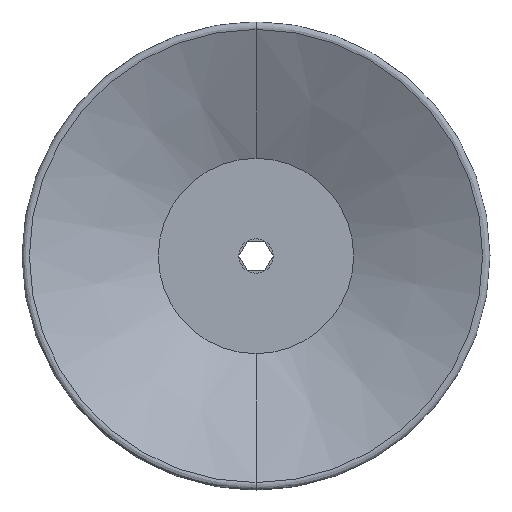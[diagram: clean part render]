
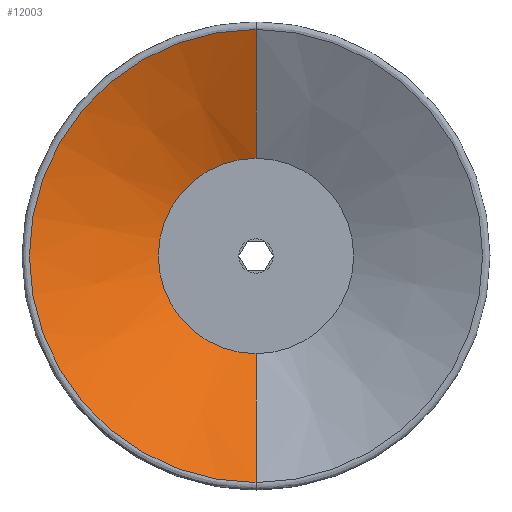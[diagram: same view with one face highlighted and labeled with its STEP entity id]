
A CAD part, front view. The second image highlights one B-rep face of the part: STEP entity #12003.
In plain terms, the highlighted conical face has half-angle 64.273 degrees and reference radius 61.492 mm.
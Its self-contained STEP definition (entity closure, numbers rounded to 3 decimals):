
#145 = EDGE_CURVE ( 'NONE', #10352, #3583, #7480, .T. ) ;
#378 = DIRECTION ( 'NONE',  ( 0., -1., 0. ) ) ;
#988 = VERTEX_POINT ( 'NONE', #1513 ) ;
#1126 = ORIENTED_EDGE ( 'NONE', *, *, #145, .F. ) ;
#1513 = CARTESIAN_POINT ( 'NONE',  ( 0., -33.861, 61.492 ) ) ;
#1663 = CONICAL_SURFACE ( 'NONE', #8410, 61.492, 1.122 ) ;
#1706 = DIRECTION ( 'NONE',  ( 0., 0., -1. ) ) ;
#2758 = DIRECTION ( 'NONE',  ( 0., -1., 0. ) ) ;
#3330 = CARTESIAN_POINT ( 'NONE',  ( 0., -17., 26.5 ) ) ;
#3536 = VERTEX_POINT ( 'NONE', #3330 ) ;
#3583 = VERTEX_POINT ( 'NONE', #6363 ) ;
#4049 = VECTOR ( 'NONE', #6882, 1000. ) ;
#4380 = CIRCLE ( 'NONE', #6175, 26.5 ) ;
#4620 = LINE ( 'NONE', #5892, #4049 ) ;
#5057 = CIRCLE ( 'NONE', #10441, 61.492 ) ;
#5271 = EDGE_LOOP ( 'NONE', ( #12150, #10329, #11287, #1126 ) ) ;
#5892 = CARTESIAN_POINT ( 'NONE',  ( 0., -33.861, 61.492 ) ) ;
#5926 = CARTESIAN_POINT ( 'NONE',  ( 0., -33.861, 0. ) ) ;
#6175 = AXIS2_PLACEMENT_3D ( 'NONE', #10839, #378, #6639 ) ;
#6363 = CARTESIAN_POINT ( 'NONE',  ( 0., -33.861, -61.492 ) ) ;
#6639 = DIRECTION ( 'NONE',  ( 0., 0., -1. ) ) ;
#6882 = DIRECTION ( 'NONE',  ( 0., -0.434, 0.901 ) ) ;
#7480 = LINE ( 'NONE', #9641, #9676 ) ;
#8410 = AXIS2_PLACEMENT_3D ( 'NONE', #5926, #2758, #1706 ) ;
#9083 = DIRECTION ( 'NONE',  ( 0., 0., 1. ) ) ;
#9641 = CARTESIAN_POINT ( 'NONE',  ( 0., -33.861, -61.492 ) ) ;
#9676 = VECTOR ( 'NONE', #11743, 1000. ) ;
#9700 = EDGE_CURVE ( 'NONE', #3536, #988, #4620, .T. ) ;
#10329 = ORIENTED_EDGE ( 'NONE', *, *, #9700, .T. ) ;
#10352 = VERTEX_POINT ( 'NONE', #12829 ) ;
#10441 = AXIS2_PLACEMENT_3D ( 'NONE', #13411, #12019, #9083 ) ;
#10839 = CARTESIAN_POINT ( 'NONE',  ( 0., -17., 0. ) ) ;
#11287 = ORIENTED_EDGE ( 'NONE', *, *, #13028, .F. ) ;
#11678 = EDGE_CURVE ( 'NONE', #3536, #10352, #4380, .T. ) ;
#11743 = DIRECTION ( 'NONE',  ( 0., -0.434, -0.901 ) ) ;
#12003 = ADVANCED_FACE ( 'NONE', ( #13351 ), #1663, .F. ) ;
#12019 = DIRECTION ( 'NONE',  ( 0., 1., 0. ) ) ;
#12150 = ORIENTED_EDGE ( 'NONE', *, *, #11678, .F. ) ;
#12829 = CARTESIAN_POINT ( 'NONE',  ( 0., -17., -26.5 ) ) ;
#13028 = EDGE_CURVE ( 'NONE', #3583, #988, #5057, .T. ) ;
#13351 = FACE_OUTER_BOUND ( 'NONE', #5271, .T. ) ;
#13411 = CARTESIAN_POINT ( 'NONE',  ( 0., -33.861, 0. ) ) ;
